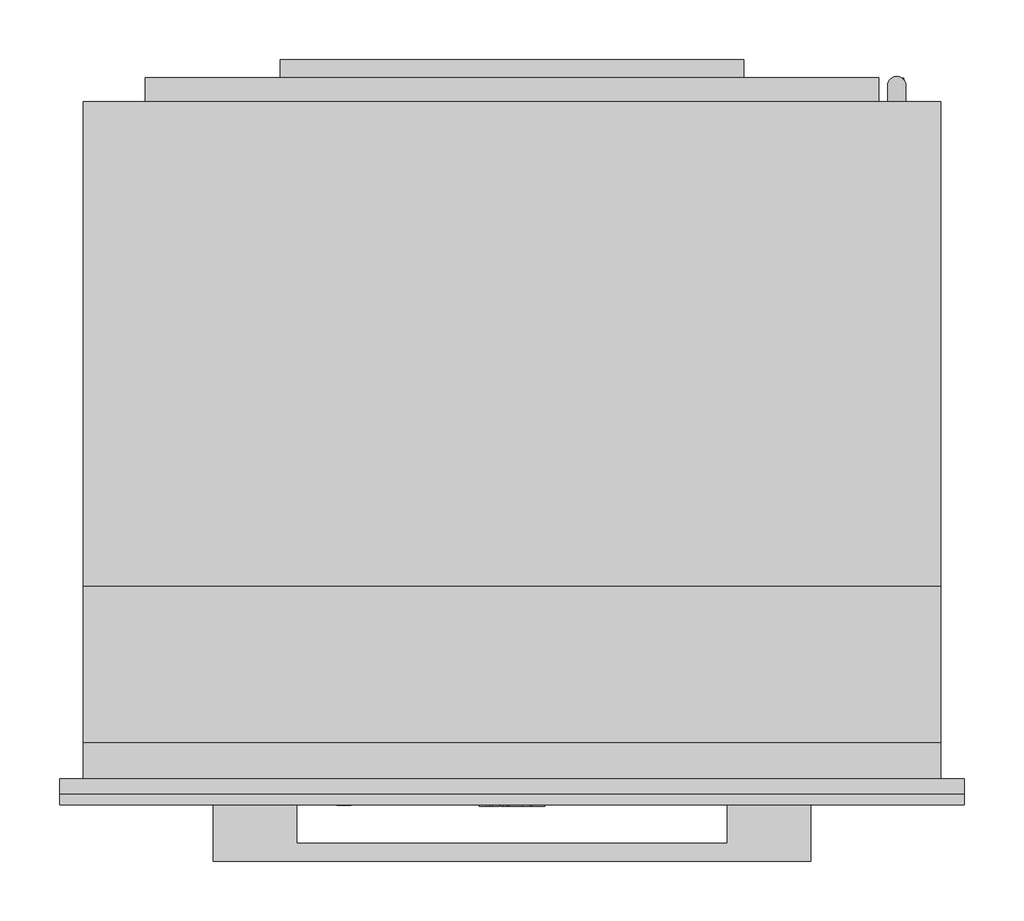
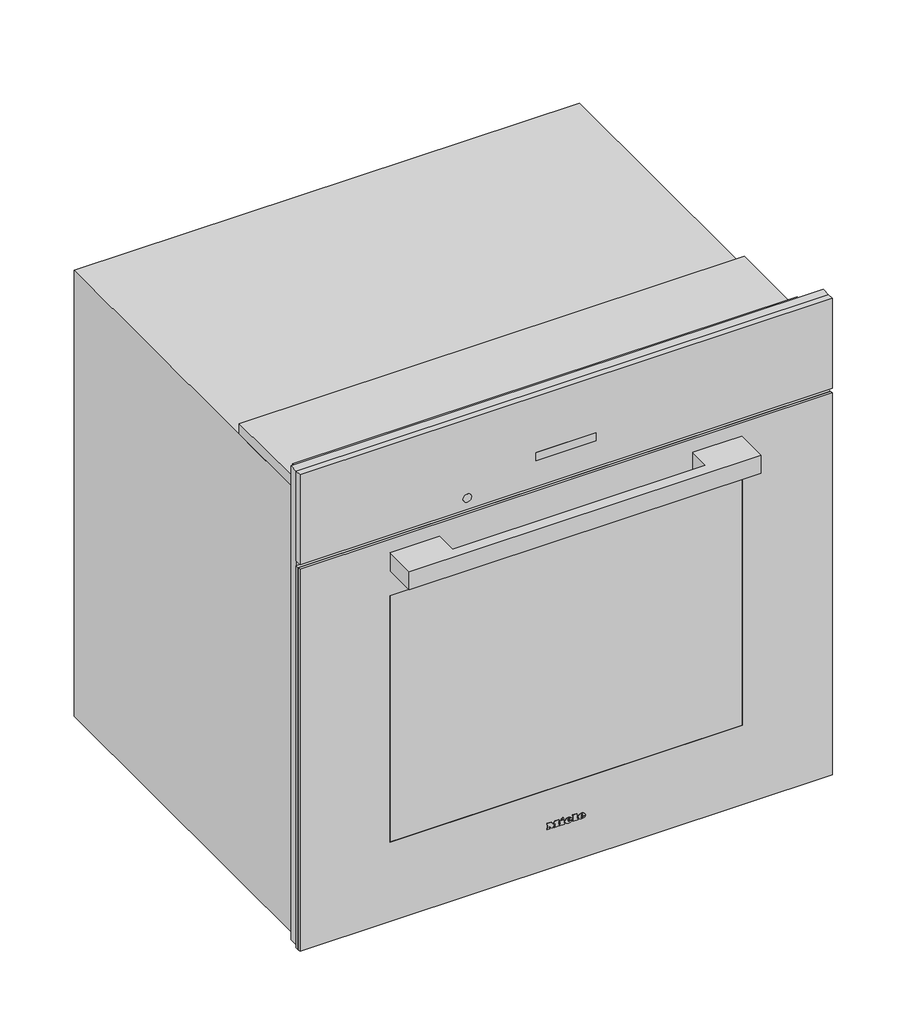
# Not in any storey: 1 proxy.
"""IFC4 building model written with IfcOpenShell, lengths in millimetres."""

from ifc_helpers import new_model, si_unit, origin, place, context, project, spatial, transform, mapped, element, save
from components import specialty_equipment_3b69b740

model = new_model("IFC4")

# Units and contexts
model_context = context("Model", 3, world=origin())
ifc_project = project(units=[si_unit("LENGTHUNIT", "METRE", prefix="MILLI")], contexts=[model_context])

# Site, building
site = spatial("IfcSite", under=ifc_project)
building = spatial("IfcBuilding", under=site)

# Proxy
placement = place(None, origin())
specialty_equipment_shape = specialty_equipment_3b69b740(model_context)
element("IfcBuildingElementProxy", 1, Name="11968200_USA_H7280BP_OBSW : 22728025_USA_11968200_H7280BP_OBSW", ObjectType="11968200_USA_H7280BP_OBSW : 22728025_USA_11968200_H7280BP_OBSW", at=placement, inside=building, context=model_context, shape_type="MappedRepresentation", body=[
    mapped(specialty_equipment_shape, transform((0.0, 0.0, 0.0), x_axis=(1.0, 0.0, 0.0), y_axis=(0.0, 1.0, 0.0), z_axis=(0.0, 0.0, 1.0))),
])

save(model, "model.ifc")
